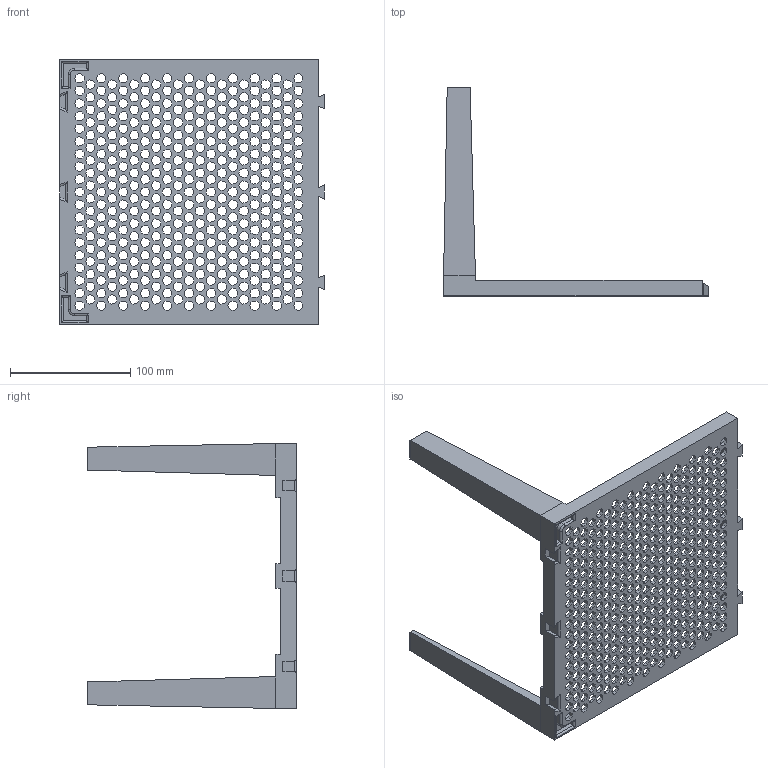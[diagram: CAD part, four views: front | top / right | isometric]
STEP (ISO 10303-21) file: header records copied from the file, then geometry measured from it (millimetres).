
FILE_DESCRIPTION (( 'STEP AP214' ), '1' );
FILE_NAME ('Shoe rack element v4.1 extension.STEP', '2024-10-05T08:42:38', ( '' ), ( '' ), 'SwSTEP 2.0', 'SolidWorks 2024', '' );
FILE_SCHEMA (( 'AUTOMOTIVE_DESIGN' ));
Products named in the file (1): Shoe rack element v4.1 extension
Bounding box: 220 x 173.01 x 220 mm (x, y, z)
Volume: 204791.4 mm3; surface area: 137048.7 mm2
Topology: 1 solids, 1 shells, 3648 faces, 10887 edges, 7243 vertices
Faces by surface type: plane 3607, cylinder 37, bspline 2, torus 2
Entity records: 121644 total; most frequent: CARTESIAN_POINT 21987, ORIENTED_EDGE 21774, DIRECTION 18199, EDGE_CURVE 10887, VECTOR 10821, LINE 10821, VERTEX_POINT 7243, EDGE_LOOP 4428
